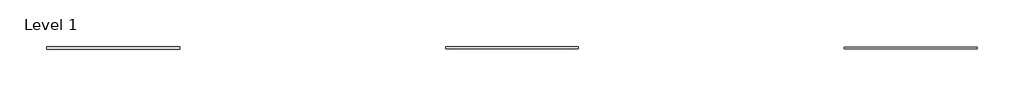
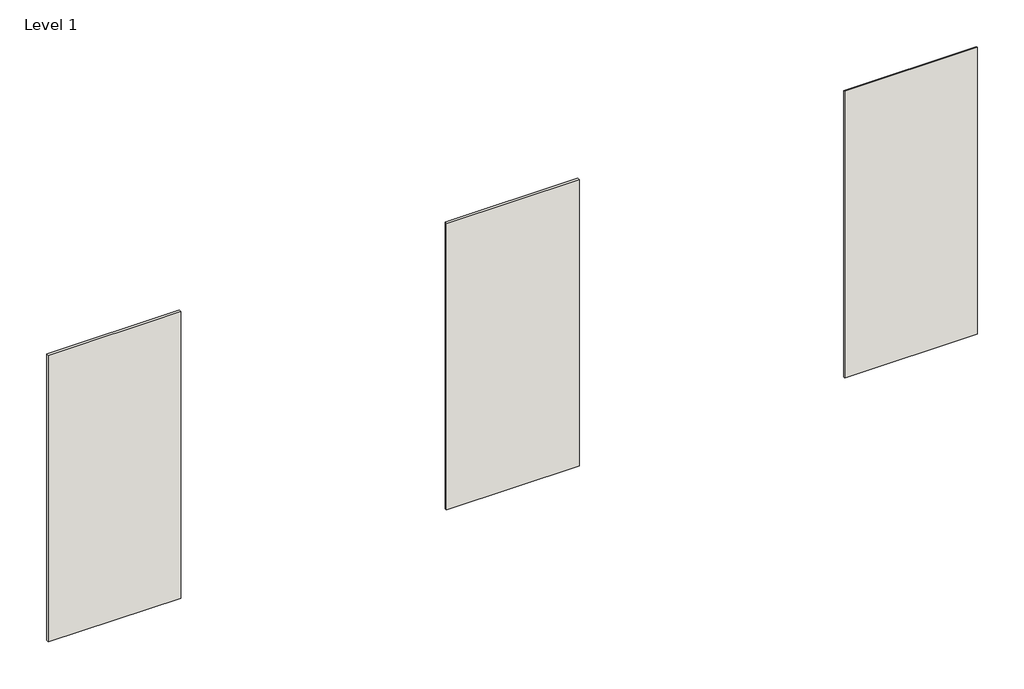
# One storey: 3 walls.
"""IFC4 building model written with IfcOpenShell, lengths in millimetres."""

import ifcopenshell
import ifcopenshell.guid

model = None  # the IFC model being written
_history = None  # IfcOwnerHistory: only IFC2X3 demands one
_inside = {}  # id of a spatial element -> (the spatial element, [elements in it])
_under = {}  # id of a project, library or spatial element -> (it, [spatial elements below it])
_declared = {}  # id of a project -> (the project, [libraries it declares])
_typed = {}  # id of a type object -> (the type object, [elements of that type])
_made_of = {}  # id of a material, layer set ... -> (it, [elements and type objects made of it])


def new_model(schema):
    """Start an empty IFC model of exactly this schema.

    Asked for "IFC4X3", IfcOpenShell would pick the latest addendum, in which some entities
    have other attributes; the version numbers below select the first issue.
    IFC2X3 requires an IfcOwnerHistory on every rooted entity: one is made here for all.
    """
    global model, _history
    if schema == "IFC4X3":
        model = ifcopenshell.file(schema_version=(4, 3, 0, 0))
    else:
        model = ifcopenshell.file(schema=schema)
    _inside.clear()
    _under.clear()
    _declared.clear()
    _typed.clear()
    _made_of.clear()
    _history = None
    if model.schema == "IFC2X3":
        org = make("IfcOrganization", Name="unknown")
        user = make(
            "IfcPersonAndOrganization",
            ThePerson=make("IfcPerson", FamilyName="unknown"),
            TheOrganization=org,
        )
        app = make(
            "IfcApplication",
            ApplicationDeveloper=org,
            Version="unknown",
            ApplicationFullName="unknown",
            ApplicationIdentifier="unknown",
        )
        _history = make(
            "IfcOwnerHistory",
            OwningUser=user,
            OwningApplication=app,
            ChangeAction="ADDED",
            CreationDate=0,
        )
    return model


def make(cls, **values):
    """One entity of the class cls with the attributes given. An attribute that is None is left unset."""
    return model.create_entity(
        cls, **{name: value for name, value in values.items() if value is not None}
    )


def rooted(cls, **values):
    """An entity with a GlobalId (a new one), such as an element, a storey or a relation."""
    return make(cls, GlobalId=ifcopenshell.guid.new(), OwnerHistory=_history, **values)


def si_unit(unit_type, name, prefix=None):
    """IfcSIUnit, for example si_unit("LENGTHUNIT", "METRE", prefix="MILLI")."""
    return make("IfcSIUnit", UnitType=unit_type, Prefix=prefix, Name=name)


def assignment(units):
    """IfcUnitAssignment: the units of a project."""
    return None if units is None else make("IfcUnitAssignment", Units=units)


def point(xyz):
    """IfcCartesianPoint."""
    return None if xyz is None else make("IfcCartesianPoint", Coordinates=xyz)


def direction(xyz):
    """IfcDirection."""
    return None if xyz is None else make("IfcDirection", DirectionRatios=xyz)


def frame(location, z_axis=None, x_axis=None):
    """IfcAxis2Placement3D, a coordinate frame: its origin and axes. An axis left out is left unset."""
    return make(
        "IfcAxis2Placement3D",
        Location=point(location),
        Axis=direction(z_axis),
        RefDirection=direction(x_axis),
    )


def origin():
    """The frame at (0, 0, 0) with its axes left unset."""
    return frame((0.0, 0.0, 0.0))


def place(relative_to, where):
    """IfcLocalPlacement: puts the frame where relative to a parent placement (None: the world)."""
    return make(
        "IfcLocalPlacement", PlacementRelTo=relative_to, RelativePlacement=where
    )


def context(
    kind, dimensions, precision=None, world=None, true_north=None, identifier=None
):
    """IfcGeometricRepresentationContext, for example the 3D "Model" context."""
    return make(
        "IfcGeometricRepresentationContext",
        ContextIdentifier=identifier,
        ContextType=kind,
        CoordinateSpaceDimension=dimensions,
        Precision=precision,
        WorldCoordinateSystem=world,
        TrueNorth=true_north,
    )


def project(units=None, contexts=None):
    """IfcProject with its units and contexts."""
    return rooted(
        "IfcProject",
        Name="project",
        RepresentationContexts=contexts,
        UnitsInContext=assignment(units),
    )


def spatial(cls, under=None, at=None, **own):
    """A site, building, storey or space (cls), placed at a placement, below another one or the project."""
    s = rooted(cls, ObjectPlacement=at, **own)
    if under is not None:
        _under.setdefault(under.id(), (under, []))[1].append(s)
    return s


def polyline(points):
    """IfcPolyline through the points."""
    return make("IfcPolyline", Points=[point(p) for p in points])


def outline(outer, holes=None, kind="AREA"):
    """IfcArbitraryClosedProfileDef: a profile drawn as a closed curve; with holes, ...WithVoids."""
    if holes is None:
        return make("IfcArbitraryClosedProfileDef", ProfileType=kind, OuterCurve=outer)
    return make(
        "IfcArbitraryProfileDefWithVoids",
        ProfileType=kind,
        OuterCurve=outer,
        InnerCurves=holes,
    )


def extrude(swept, where, along, depth):
    """IfcExtrudedAreaSolid: the profile swept, set in the frame where, extruded along a direction by depth."""
    return make(
        "IfcExtrudedAreaSolid",
        SweptArea=swept,
        Position=where,
        ExtrudedDirection=direction(along),
        Depth=depth,
    )


def shape(context_of_items, identifier, shape_type, items):
    """IfcShapeRepresentation: the items that make up one representation, for example the "Body"."""
    return make(
        "IfcShapeRepresentation",
        ContextOfItems=context_of_items,
        RepresentationIdentifier=identifier,
        RepresentationType=shape_type,
        Items=items,
    )


def made_of(thing, what):
    """Note that an element or type object is made of a material, layer set ...; save() writes the relation."""
    if what is not None:
        _made_of.setdefault(what.id(), (what, []))[1].append(thing)
    return thing


def element(
    cls,
    number,
    at=None,
    inside=None,
    cuts=None,
    type_object=None,
    material=None,
    context=None,
    identifier="Body",
    shape_type=None,
    held_by="IfcProductDefinitionShape",
    body=None,
    shapes=None,
    **own,
):
    """One element of the class cls, such as IfcWall. Its Tag is "e" and its number.

    at: its placement. inside: the storey or other place that contains it. cuts: it is an
    opening in that element (IfcRelVoidsElement). A single representation is given by context,
    identifier, shape_type and body (its items); several are given by shapes. held_by: the class
    of the entity that holds the representations. save() writes the other relations.
    """
    e = rooted(cls, Tag="e%d" % number, ObjectPlacement=at, **own)
    if body is not None:
        shapes = [shape(context, identifier, shape_type, body)]
    if shapes is not None:
        e.Representation = make(held_by, Representations=shapes)
    if inside is not None:
        _inside.setdefault(inside.id(), (inside, []))[1].append(e)
    if cuts is not None:
        rooted(
            "IfcRelVoidsElement", RelatingBuildingElement=cuts, RelatedOpeningElement=e
        )
    if type_object is not None:
        _typed.setdefault(type_object.id(), (type_object, []))[1].append(e)
    return made_of(e, material)


def aggregate(whole, parts):
    """IfcRelAggregates: a whole, such as a stair, and the parts it consists of."""
    return rooted("IfcRelAggregates", RelatingObject=whole, RelatedObjects=parts)


def save(model, path):
    """Write the relations noted so far, then the file.

    IfcRelAggregates (storeys below a building ...), IfcRelContainedInSpatialStructure (elements
    in a storey), IfcRelDefinesByType, IfcRelAssociatesMaterial and IfcRelDeclares: one each for
    every whole, place, type object, material and project.
    """
    for whole, parts in _under.values():
        aggregate(whole, parts)
    for where, things in _inside.values():
        rooted(
            "IfcRelContainedInSpatialStructure",
            RelatedElements=things,
            RelatingStructure=where,
        )
    for kind, things in _typed.values():
        rooted("IfcRelDefinesByType", RelatedObjects=things, RelatingType=kind)
    for what, things in _made_of.values():
        rooted("IfcRelAssociatesMaterial", RelatedObjects=things, RelatingMaterial=what)
    for by, libraries in _declared.values():
        rooted("IfcRelDeclares", RelatingContext=by, RelatedDefinitions=libraries)
    model.write(path)


model = new_model("IFC4")

# Units and contexts
model_context = context("Model", 3, world=origin())
ifc_project = project(units=[si_unit("LENGTHUNIT", "METRE", prefix="MILLI")], contexts=[model_context])

# Site, building, storey
site = spatial("IfcSite", under=ifc_project)
building = spatial("IfcBuilding", under=site)
storey = spatial("IfcBuildingStorey", under=building, Name="Level 1", Elevation=0.0)

# Walls
placement = place(None, origin())
element("IfcWall", 1, ObjectType="Windproof Plus 25mm 1200x2740 Fold", at=placement, inside=storey, context=model_context, shape_type="SweptSolid", body=[
    extrude(outline(polyline([(-3682.735738, -1249.7130659), (-4882.735738, -1249.7130659), (-4882.735738, -1224.7130659), (-3682.735738, -1224.7130659), (-3682.735738, -1249.7130659)])), frame((0.0, 0.0, -6000.0), z_axis=(0.0, 0.0, 1.0), x_axis=(1.0, 0.0, 0.0)), (0.0, 0.0, 1.0), 2740.0),
])
element("IfcWall", 2, ObjectType="Windproof Plus 15mm 1200x2740 Fold", at=placement, inside=storey, context=model_context, shape_type="SweptSolid", body=[
    extrude(outline(polyline([(3517.264262, -1244.7130659), (2317.264262, -1244.7130659), (2317.264262, -1229.7130659), (3517.264262, -1229.7130659), (3517.264262, -1244.7130659)])), frame((0.0, 0.0, -6000.0), z_axis=(0.0, 0.0, 1.0), x_axis=(1.0, 0.0, 0.0)), (0.0, 0.0, 1.0), 2740.0),
])
element("IfcWall", 3, ObjectType="Windproof Plus 19mm 1200x2740 Fold", at=placement, inside=storey, context=model_context, shape_type="SweptSolid", body=[
    extrude(outline(polyline([(-82.735738, -1246.7130659), (-1282.735738, -1246.7130659), (-1282.735738, -1227.7130659), (-82.735738, -1227.7130659), (-82.735738, -1246.7130659)])), frame((0.0, 0.0, -6000.0), z_axis=(0.0, 0.0, 1.0), x_axis=(1.0, 0.0, 0.0)), (0.0, 0.0, 1.0), 2740.0),
])

save(model, "model.ifc")
